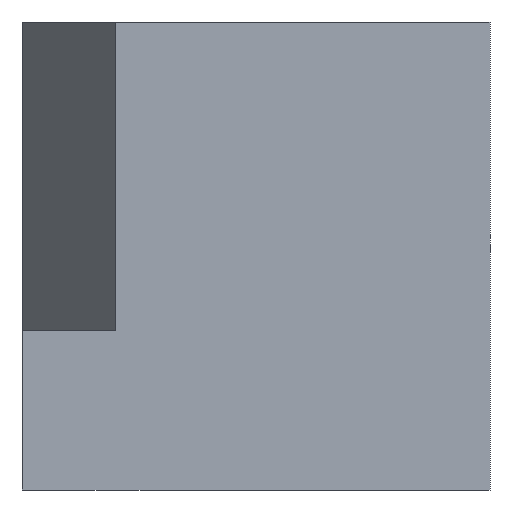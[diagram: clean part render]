
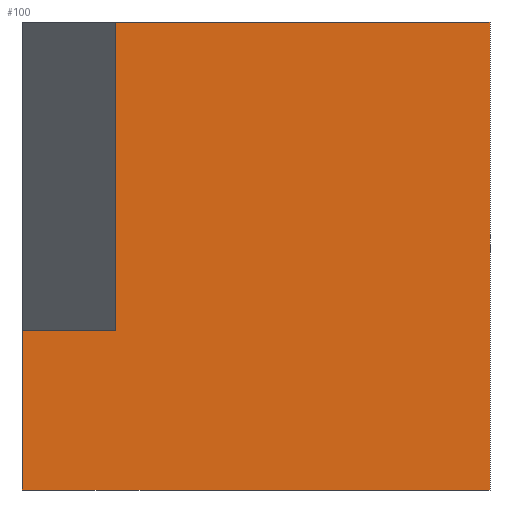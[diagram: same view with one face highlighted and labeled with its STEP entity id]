
A CAD part, left-side view. The second image highlights one B-rep face of the part: STEP entity #100.
In plain terms, the highlighted planar face has unit normal (-1, 0, 0).
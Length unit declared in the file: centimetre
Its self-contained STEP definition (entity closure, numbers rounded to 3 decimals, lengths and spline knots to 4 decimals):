
#12 = CARTESIAN_POINT ( 'NONE',  ( 0., 1000., 1000. ) ) ;
#19 = FACE_OUTER_BOUND ( 'NONE', #648, .T. ) ;
#21 = VERTEX_POINT ( 'NONE', #541 ) ;
#25 = CARTESIAN_POINT ( 'NONE',  ( 0., 1000., 0. ) ) ;
#66 = LINE ( 'NONE', #12, #674 ) ;
#77 = ORIENTED_EDGE ( 'NONE', *, *, #113, .T. ) ;
#84 = DIRECTION ( 'NONE',  ( 0., -1., 0. ) ) ;
#96 = CARTESIAN_POINT ( 'NONE',  ( 0., 1000., 1000. ) ) ;
#100 = ADVANCED_FACE ( 'NONE', ( #19 ), #233, .F. ) ;
#113 = EDGE_CURVE ( 'NONE', #660, #460, #461, .T. ) ;
#136 = ORIENTED_EDGE ( 'NONE', *, *, #575, .F. ) ;
#144 = EDGE_CURVE ( 'NONE', #460, #21, #313, .T. ) ;
#158 = DIRECTION ( 'NONE',  ( 0., 0., -1. ) ) ;
#163 = VECTOR ( 'NONE', #84, 100. ) ;
#170 = CARTESIAN_POINT ( 'NONE',  ( 0., 801.1279, 1000. ) ) ;
#214 = CARTESIAN_POINT ( 'NONE',  ( 0., 801.1279, 339.7542 ) ) ;
#222 = DIRECTION ( 'NONE',  ( 0., -1., 0. ) ) ;
#233 = PLANE ( 'NONE',  #468 ) ;
#273 = CARTESIAN_POINT ( 'NONE',  ( 0., 1000., 339.7542 ) ) ;
#276 = CARTESIAN_POINT ( 'NONE',  ( 0., 0., 1000. ) ) ;
#284 = DIRECTION ( 'NONE',  ( 0., -1., 0. ) ) ;
#304 = VERTEX_POINT ( 'NONE', #525 ) ;
#306 = CARTESIAN_POINT ( 'NONE',  ( 0., 1000., 0. ) ) ;
#310 = DIRECTION ( 'NONE',  ( 0., 0., -1. ) ) ;
#313 = LINE ( 'NONE', #306, #163 ) ;
#320 = VECTOR ( 'NONE', #310, 100. ) ;
#324 = LINE ( 'NONE', #420, #521 ) ;
#326 = DIRECTION ( 'NONE',  ( 0., 0., 1. ) ) ;
#420 = CARTESIAN_POINT ( 'NONE',  ( 0., 801.1279, 339.7542 ) ) ;
#428 = LINE ( 'NONE', #276, #478 ) ;
#439 = ORIENTED_EDGE ( 'NONE', *, *, #144, .T. ) ;
#460 = VERTEX_POINT ( 'NONE', #25 ) ;
#461 = LINE ( 'NONE', #673, #320 ) ;
#468 = AXIS2_PLACEMENT_3D ( 'NONE', #96, #560, #617 ) ;
#478 = VECTOR ( 'NONE', #158, 100. ) ;
#516 = VECTOR ( 'NONE', #284, 100. ) ;
#521 = VECTOR ( 'NONE', #326, 100. ) ;
#525 = CARTESIAN_POINT ( 'NONE',  ( 0., 0., 1000. ) ) ;
#530 = LINE ( 'NONE', #273, #516 ) ;
#541 = CARTESIAN_POINT ( 'NONE',  ( 0., 0., 0. ) ) ;
#556 = ORIENTED_EDGE ( 'NONE', *, *, #607, .F. ) ;
#560 = DIRECTION ( 'NONE',  ( 1., 0., 0. ) ) ;
#567 = EDGE_CURVE ( 'NONE', #591, #577, #324, .T. ) ;
#575 = EDGE_CURVE ( 'NONE', #660, #591, #530, .T. ) ;
#577 = VERTEX_POINT ( 'NONE', #170 ) ;
#586 = CARTESIAN_POINT ( 'NONE',  ( 0., 1000., 339.7542 ) ) ;
#591 = VERTEX_POINT ( 'NONE', #214 ) ;
#599 = ORIENTED_EDGE ( 'NONE', *, *, #567, .F. ) ;
#607 = EDGE_CURVE ( 'NONE', #304, #21, #428, .T. ) ;
#617 = DIRECTION ( 'NONE',  ( 0., 0., -1. ) ) ;
#633 = EDGE_CURVE ( 'NONE', #577, #304, #66, .T. ) ;
#648 = EDGE_LOOP ( 'NONE', ( #667, #599, #136, #77, #439, #556 ) ) ;
#660 = VERTEX_POINT ( 'NONE', #586 ) ;
#667 = ORIENTED_EDGE ( 'NONE', *, *, #633, .F. ) ;
#673 = CARTESIAN_POINT ( 'NONE',  ( 0., 1000., 1000. ) ) ;
#674 = VECTOR ( 'NONE', #222, 100. ) ;
